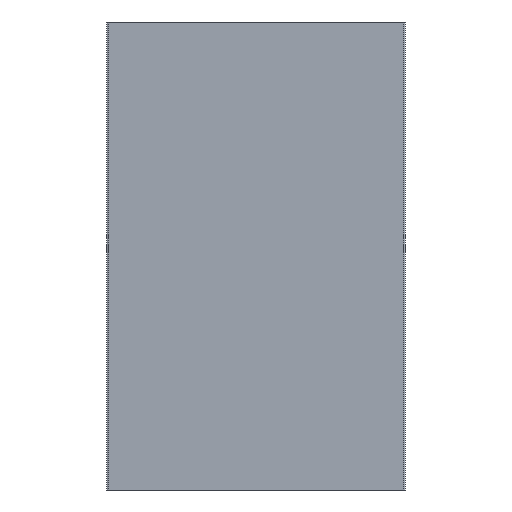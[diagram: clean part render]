
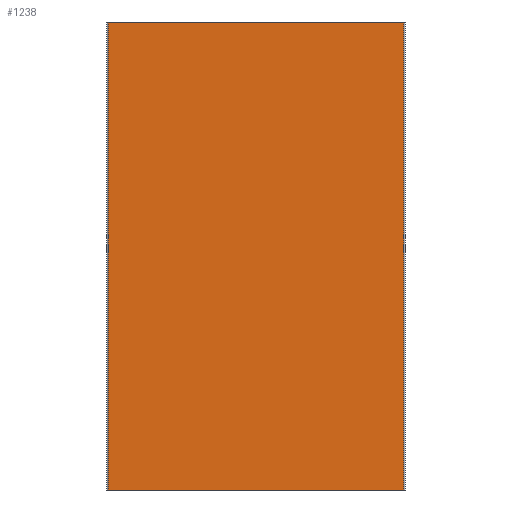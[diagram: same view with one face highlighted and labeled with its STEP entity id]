
A CAD part, left-side view. The second image highlights one B-rep face of the part: STEP entity #1238.
In plain terms, the highlighted planar face has unit normal (-1, 0, 0).
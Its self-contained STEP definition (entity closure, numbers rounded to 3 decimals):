
#33=PLANE('',#1379);
#80=FACE_OUTER_BOUND('',#146,.T.);
#146=EDGE_LOOP('',(#883,#884,#885,#886));
#224=LINE('',#1949,#354);
#225=LINE('',#1952,#355);
#226=LINE('',#1954,#356);
#227=LINE('',#1955,#357);
#354=VECTOR('',#1568,10.);
#355=VECTOR('',#1571,10.);
#356=VECTOR('',#1572,10.);
#357=VECTOR('',#1573,10.);
#543=VERTEX_POINT('',#1945);
#544=VERTEX_POINT('',#1947);
#545=VERTEX_POINT('',#1951);
#546=VERTEX_POINT('',#1953);
#682=EDGE_CURVE('',#543,#544,#224,.T.);
#683=EDGE_CURVE('',#545,#543,#225,.T.);
#684=EDGE_CURVE('',#546,#544,#226,.T.);
#685=EDGE_CURVE('',#545,#546,#227,.T.);
#883=ORIENTED_EDGE('',*,*,#683,.T.);
#884=ORIENTED_EDGE('',*,*,#682,.T.);
#885=ORIENTED_EDGE('',*,*,#684,.F.);
#886=ORIENTED_EDGE('',*,*,#685,.F.);
#1238=ADVANCED_FACE('',(#80),#33,.T.);
#1379=AXIS2_PLACEMENT_3D('',#1950,#1569,#1570);
#1568=DIRECTION('',(0.,0.,1.));
#1569=DIRECTION('center_axis',(-1.,0.,0.));
#1570=DIRECTION('ref_axis',(0.,-1.,0.));
#1571=DIRECTION('',(0.,-1.,0.));
#1572=DIRECTION('',(0.,-1.,0.));
#1573=DIRECTION('',(0.,0.,1.));
#1945=CARTESIAN_POINT('',(-18.595,-41.736,0.));
#1947=CARTESIAN_POINT('',(-18.595,-41.736,149.));
#1949=CARTESIAN_POINT('',(-18.595,-41.736,0.));
#1950=CARTESIAN_POINT('Origin',(-18.595,52.364,0.));
#1951=CARTESIAN_POINT('',(-18.595,52.364,0.));
#1952=CARTESIAN_POINT('',(-18.595,52.364,0.));
#1953=CARTESIAN_POINT('',(-18.595,52.364,149.));
#1954=CARTESIAN_POINT('',(-18.595,52.364,149.));
#1955=CARTESIAN_POINT('',(-18.595,52.364,0.));
